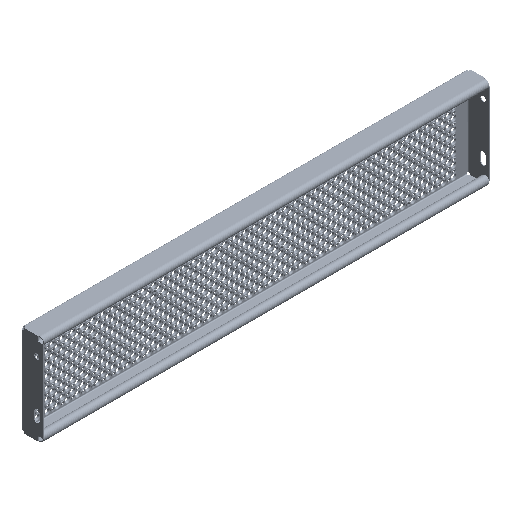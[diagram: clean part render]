
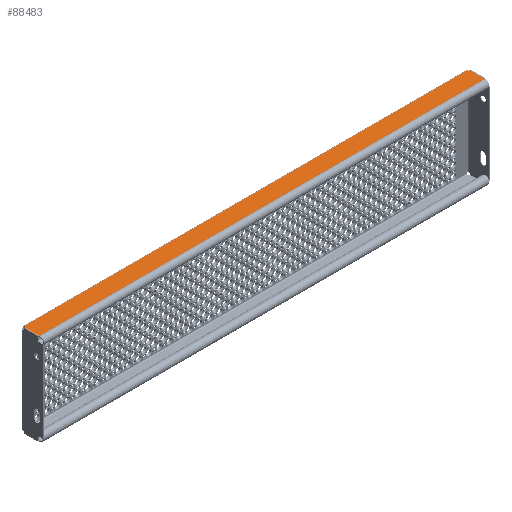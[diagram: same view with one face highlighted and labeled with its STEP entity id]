
A CAD part, isometric view. The second image highlights one B-rep face of the part: STEP entity #88483.
In plain terms, the highlighted planar face has unit normal (0, 0, 1).
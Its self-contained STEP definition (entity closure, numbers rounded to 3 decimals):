
#23524 = CARTESIAN_POINT ( 'NONE',  ( 549., -2.288, 112.5 ) ) ;
#27369 = CARTESIAN_POINT ( 'NONE',  ( -547.99, -7.185, 112.5 ) ) ;
#34181 = LINE ( 'NONE', #168678, #317979 ) ;
#34424 = AXIS2_PLACEMENT_3D ( 'NONE', #23524, #198949, #262843 ) ;
#46945 = DIRECTION ( 'NONE',  ( 0., 0., -1. ) ) ;
#47376 = VERTEX_POINT ( 'NONE', #361399 ) ;
#64491 = ORIENTED_EDGE ( 'NONE', *, *, #257206, .T. ) ;
#65567 = VECTOR ( 'NONE', #445909, 1000. ) ;
#71698 = VECTOR ( 'NONE', #278511, 1000. ) ;
#75757 = DIRECTION ( 'NONE',  ( 0., 0., 1. ) ) ;
#83413 = CARTESIAN_POINT ( 'NONE',  ( -549., -2.288, 112.5 ) ) ;
#88483 = ADVANCED_FACE ( 'NONE', ( #285361 ), #103238, .T. ) ;
#103238 = PLANE ( 'NONE',  #326576 ) ;
#115999 = CARTESIAN_POINT ( 'NONE',  ( 544.302, -4., 112.5 ) ) ;
#125758 = ORIENTED_EDGE ( 'NONE', *, *, #228456, .T. ) ;
#139513 = CARTESIAN_POINT ( 'NONE',  ( -549., -4., 112.5 ) ) ;
#141642 = LINE ( 'NONE', #271634, #190068 ) ;
#145575 = CIRCLE ( 'NONE', #210941, 5. ) ;
#146376 = CARTESIAN_POINT ( 'NONE',  ( -549., 220.712, 112.5 ) ) ;
#162246 = ORIENTED_EDGE ( 'NONE', *, *, #408549, .T. ) ;
#168678 = CARTESIAN_POINT ( 'NONE',  ( -547.99, -43.998, 112.5 ) ) ;
#172643 = CIRCLE ( 'NONE', #34424, 5. ) ;
#178395 = DIRECTION ( 'NONE',  ( 0., -1., 0. ) ) ;
#186036 = DIRECTION ( 'NONE',  ( 0., -1., 0. ) ) ;
#190068 = VECTOR ( 'NONE', #447468, 1000. ) ;
#198949 = DIRECTION ( 'NONE',  ( 0., 0., -1. ) ) ;
#201425 = CARTESIAN_POINT ( 'NONE',  ( -547.99, -43.998, 112.5 ) ) ;
#205258 = EDGE_CURVE ( 'NONE', #216540, #317184, #210130, .T. ) ;
#210130 = LINE ( 'NONE', #139513, #71698 ) ;
#210941 = AXIS2_PLACEMENT_3D ( 'NONE', #83413, #46945, #186036 ) ;
#216540 = VERTEX_POINT ( 'NONE', #302232 ) ;
#218188 = VERTEX_POINT ( 'NONE', #201425 ) ;
#228456 = EDGE_CURVE ( 'NONE', #47376, #317184, #172643, .T. ) ;
#240967 = ORIENTED_EDGE ( 'NONE', *, *, #336703, .T. ) ;
#254183 = VERTEX_POINT ( 'NONE', #27369 ) ;
#257206 = EDGE_CURVE ( 'NONE', #218188, #315342, #34181, .T. ) ;
#262843 = DIRECTION ( 'NONE',  ( 0., -1., 0. ) ) ;
#271634 = CARTESIAN_POINT ( 'NONE',  ( -547.99, -7.185, 112.5 ) ) ;
#278511 = DIRECTION ( 'NONE',  ( 1., 0., 0. ) ) ;
#285361 = FACE_OUTER_BOUND ( 'NONE', #442383, .T. ) ;
#302232 = CARTESIAN_POINT ( 'NONE',  ( -544.302, -4., 112.5 ) ) ;
#312177 = DIRECTION ( 'NONE',  ( 1., 0., 0. ) ) ;
#315342 = VERTEX_POINT ( 'NONE', #398917 ) ;
#317184 = VERTEX_POINT ( 'NONE', #115999 ) ;
#317979 = VECTOR ( 'NONE', #312177, 1000. ) ;
#326576 = AXIS2_PLACEMENT_3D ( 'NONE', #146376, #75757, #178395 ) ;
#336703 = EDGE_CURVE ( 'NONE', #216540, #254183, #145575, .T. ) ;
#361399 = CARTESIAN_POINT ( 'NONE',  ( 547.99, -7.185, 112.5 ) ) ;
#372848 = LINE ( 'NONE', #375106, #65567 ) ;
#375106 = CARTESIAN_POINT ( 'NONE',  ( 547.99, -7.185, 112.5 ) ) ;
#398917 = CARTESIAN_POINT ( 'NONE',  ( 547.99, -43.998, 112.5 ) ) ;
#399681 = ORIENTED_EDGE ( 'NONE', *, *, #420325, .T. ) ;
#408549 = EDGE_CURVE ( 'NONE', #254183, #218188, #141642, .T. ) ;
#420325 = EDGE_CURVE ( 'NONE', #315342, #47376, #372848, .T. ) ;
#442383 = EDGE_LOOP ( 'NONE', ( #64491, #399681, #125758, #450033, #240967, #162246 ) ) ;
#445909 = DIRECTION ( 'NONE',  ( 0., 1., 0. ) ) ;
#447468 = DIRECTION ( 'NONE',  ( 0., -1., 0. ) ) ;
#450033 = ORIENTED_EDGE ( 'NONE', *, *, #205258, .F. ) ;
